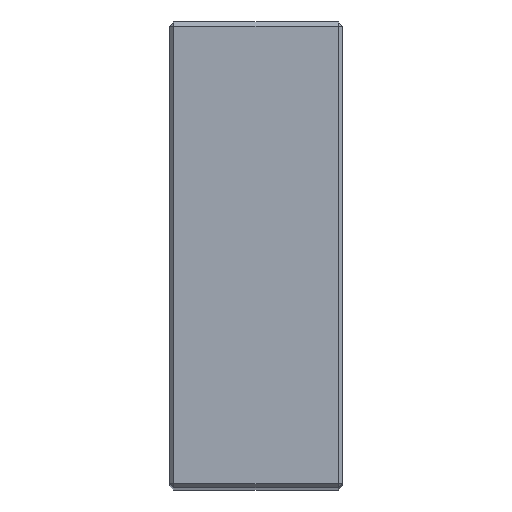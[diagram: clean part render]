
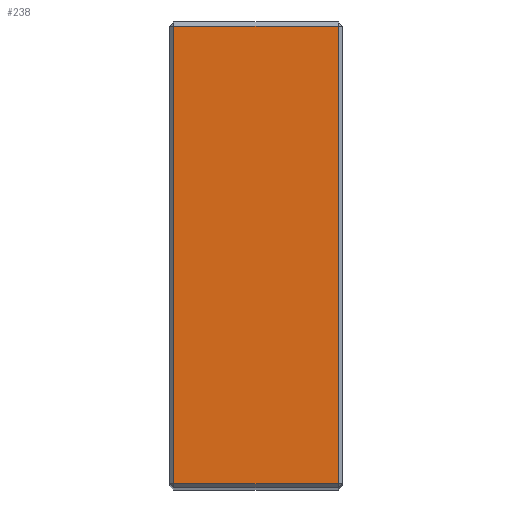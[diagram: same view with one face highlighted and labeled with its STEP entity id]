
A CAD part, top view. The second image highlights one B-rep face of the part: STEP entity #238.
In plain terms, the highlighted planar face has unit normal (0, 0, 1).
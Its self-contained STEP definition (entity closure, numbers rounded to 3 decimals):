
#33 = VERTEX_POINT ( 'NONE', #314 ) ;
#85 = FACE_OUTER_BOUND ( 'NONE', #466, .T. ) ;
#92 = LINE ( 'NONE', #493, #162 ) ;
#93 = EDGE_CURVE ( 'NONE', #33, #534, #237, .T. ) ;
#107 = VECTOR ( 'NONE', #128, 1000. ) ;
#113 = VECTOR ( 'NONE', #302, 1000. ) ;
#123 = AXIS2_PLACEMENT_3D ( 'NONE', #499, #482, #481 ) ;
#128 = DIRECTION ( 'NONE',  ( 0., 1., 0. ) ) ;
#162 = VECTOR ( 'NONE', #491, 1000. ) ;
#210 = EDGE_CURVE ( 'NONE', #534, #332, #92, .T. ) ;
#228 = CARTESIAN_POINT ( 'NONE',  ( 20.5, 116., 173. ) ) ;
#237 = LINE ( 'NONE', #228, #107 ) ;
#238 = ADVANCED_FACE ( 'NONE', ( #85 ), #484, .F. ) ;
#241 = CARTESIAN_POINT ( 'NONE',  ( -20.5, 1., 173. ) ) ;
#243 = VECTOR ( 'NONE', #299, 1000. ) ;
#255 = ORIENTED_EDGE ( 'NONE', *, *, #389, .T. ) ;
#278 = CARTESIAN_POINT ( 'NONE',  ( -20.5, 116., 173. ) ) ;
#299 = DIRECTION ( 'NONE',  ( 1., 0., 0. ) ) ;
#302 = DIRECTION ( 'NONE',  ( 0., -1., 0. ) ) ;
#314 = CARTESIAN_POINT ( 'NONE',  ( 20.5, 1., 173. ) ) ;
#332 = VERTEX_POINT ( 'NONE', #370 ) ;
#370 = CARTESIAN_POINT ( 'NONE',  ( -20.5, 115., 173. ) ) ;
#372 = ORIENTED_EDGE ( 'NONE', *, *, #544, .T. ) ;
#389 = EDGE_CURVE ( 'NONE', #332, #414, #510, .T. ) ;
#414 = VERTEX_POINT ( 'NONE', #241 ) ;
#431 = CARTESIAN_POINT ( 'NONE',  ( 21.5, 1., 173. ) ) ;
#466 = EDGE_LOOP ( 'NONE', ( #631, #255, #372, #602 ) ) ;
#481 = DIRECTION ( 'NONE',  ( -1., 0., 0. ) ) ;
#482 = DIRECTION ( 'NONE',  ( 0., 0., -1. ) ) ;
#484 = PLANE ( 'NONE',  #123 ) ;
#491 = DIRECTION ( 'NONE',  ( -1., 0., 0. ) ) ;
#493 = CARTESIAN_POINT ( 'NONE',  ( -21.5, 115., 173. ) ) ;
#499 = CARTESIAN_POINT ( 'NONE',  ( 21.5, 116., 173. ) ) ;
#502 = LINE ( 'NONE', #431, #243 ) ;
#510 = LINE ( 'NONE', #278, #113 ) ;
#534 = VERTEX_POINT ( 'NONE', #634 ) ;
#544 = EDGE_CURVE ( 'NONE', #414, #33, #502, .T. ) ;
#602 = ORIENTED_EDGE ( 'NONE', *, *, #93, .T. ) ;
#631 = ORIENTED_EDGE ( 'NONE', *, *, #210, .T. ) ;
#634 = CARTESIAN_POINT ( 'NONE',  ( 20.5, 115., 173. ) ) ;
